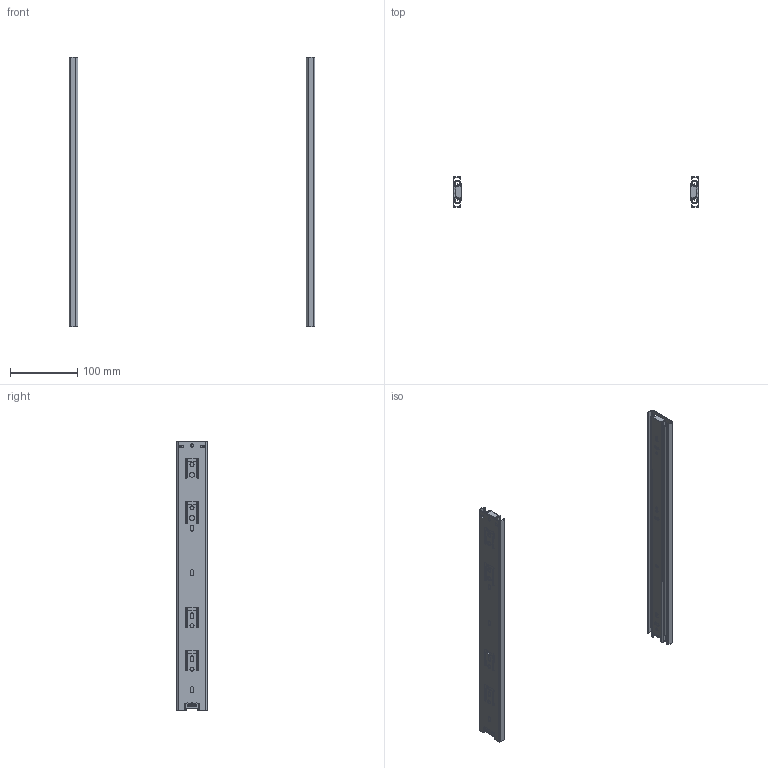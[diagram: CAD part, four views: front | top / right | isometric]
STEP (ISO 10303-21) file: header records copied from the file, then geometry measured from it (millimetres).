
FILE_DESCRIPTION(/* description */ (''),/* implementation_level */ '2;1');
FILE_NAME(/* name */ 'D:\$Workingspace\Designs\Katalog\Cadsoft\GTV Prowadnice\Prowadnice GTV_bryły 3D\PK-0H45400GX.stp',/* time_stamp */ '2016-11-22T11:45:43+01:00',/* author */ ('tomaszw'),/* organization */ (''),/* preprocessor_version */ 'ST-DEVELOPER v16.1',/* originating_system */ 'Autodesk Inventor 2016',/* authorisation */ '');
FILE_SCHEMA (('AUTOMOTIVE_DESIGN { 1 0 10303 214 3 1 1 }'));
Length unit declared in the file: millimetre
Products named in the file (5): Blokada_5; PK-0H45_1-400-GX; PK-0H45_2-400-GX; PK-0H45_3-400-GX; PK-0H45-_-GX
Assembly tree (8 placements, depth 2):
  PK-0H45-_-GX
    Blokada_5  x2
    PK-0H45_1-400-GX  x2
    PK-0H45_2-400-GX  x2
    PK-0H45_3-400-GX  x2
Bounding box: 364 x 44.5 x 400 mm (x, y, z)
Volume: 119290.1 mm3; surface area: 243365 mm2
Topology: 8 solids, 8 shells, 492 faces, 1420 edges, 944 vertices
Faces by surface type: cylinder 252, plane 236, cone 4
Full cylindrical faces by diameter (mm): 4.5 x4, 5 x2, 5.1 x2, 6 x8, 7 x4
Entity records: 8616 total; most frequent: DIRECTION 1460, CARTESIAN_POINT 1457, ORIENTED_EDGE 1400, EDGE_CURVE 700, AXIS2_PLACEMENT_3D 509, VERTEX_POINT 472, LINE 442, VECTOR 442
